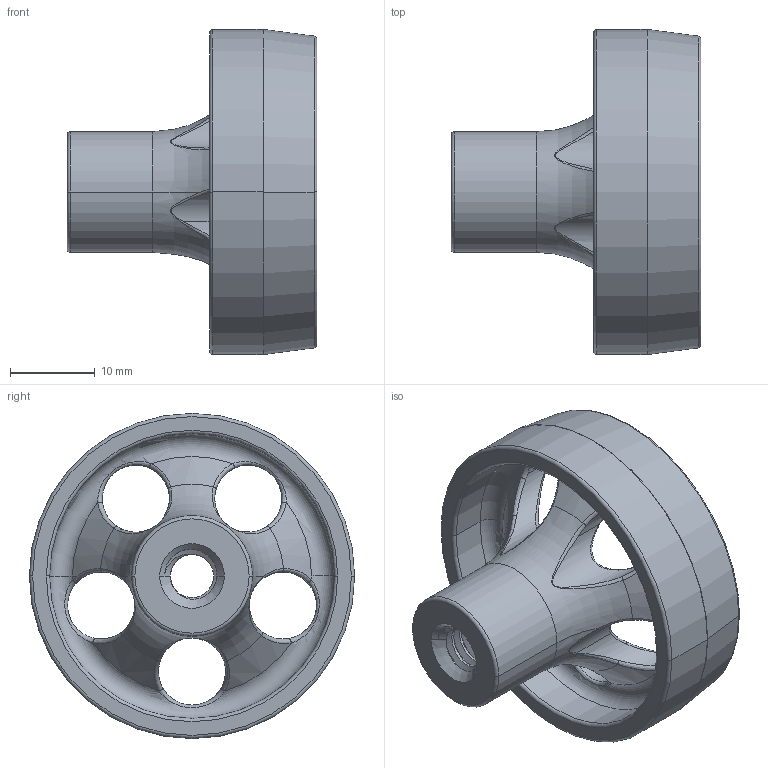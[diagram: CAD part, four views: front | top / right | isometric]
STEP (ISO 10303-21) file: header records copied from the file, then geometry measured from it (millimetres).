
FILE_DESCRIPTION (( 'STEP AP203' ), '1' );
FILE_NAME ('ATTACH_POINT.STEP', '2024-03-03T20:45:16', ( '' ), ( '' ), 'SwSTEP 2.0', 'SolidWorks 2020', '' );
FILE_SCHEMA (( 'CONFIG_CONTROL_DESIGN' ));
Length unit declared in the file: inch
Products named in the file (1): ATTACH_POINT
Bounding box: 29.56 x 38.48 x 38.48 mm (x, y, z)
Volume: 8116.6 mm3; surface area: 5715.9 mm2
Topology: 1 solids, 1 shells, 104 faces, 283 edges, 175 vertices
Faces by surface type: cylinder 40, bspline 33, torus 16, cone 12, plane 3
Entity records: 9139 total; most frequent: CARTESIAN_POINT 6817, ORIENTED_EDGE 566, DIRECTION 374, EDGE_CURVE 283, VERTEX_POINT 175, AXIS2_PLACEMENT_3D 163, EDGE_LOOP 110, FACE_OUTER_BOUND 104
